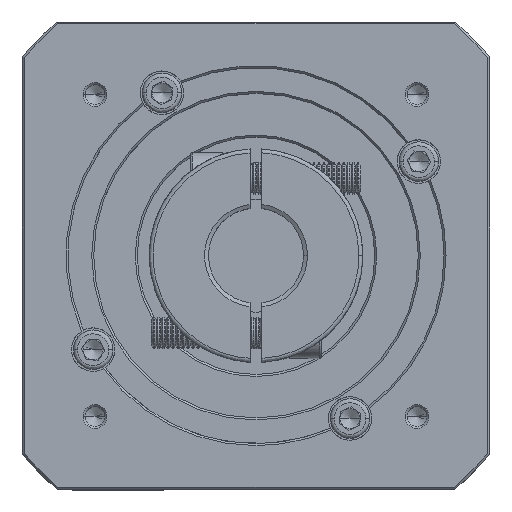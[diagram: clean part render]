
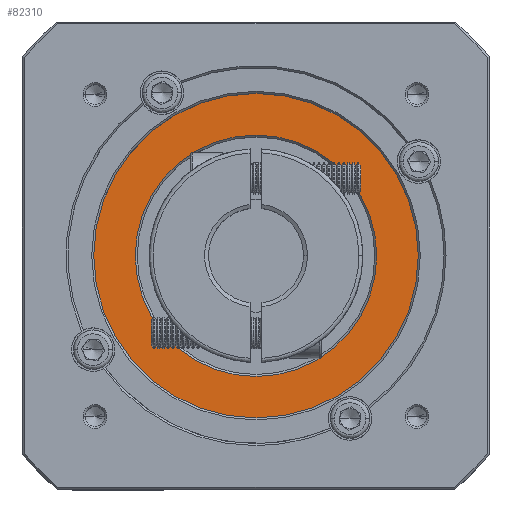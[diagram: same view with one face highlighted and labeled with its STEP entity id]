
A CAD part, top view. The second image highlights one B-rep face of the part: STEP entity #82310.
In plain terms, the highlighted planar face has unit normal (0, 0, 1).
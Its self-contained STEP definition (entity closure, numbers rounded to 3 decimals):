
#226 = EDGE_CURVE ( 'NONE', #70420, #102656, #81495, .T. ) ;
#2575 = VERTEX_POINT ( 'NONE', #78822 ) ;
#3306 = CARTESIAN_POINT ( 'NONE',  ( 64.891, 125.363, 14.683 ) ) ;
#3791 = CIRCLE ( 'NONE', #38930, 30.5 ) ;
#5584 = PLANE ( 'NONE',  #113250 ) ;
#7309 = AXIS2_PLACEMENT_3D ( 'NONE', #36746, #29016, #37125 ) ;
#12868 = EDGE_LOOP ( 'NONE', ( #42656, #79037 ) ) ;
#18182 = FACE_OUTER_BOUND ( 'NONE', #67850, .T. ) ;
#26263 = DIRECTION ( 'NONE',  ( 0., 0., -1. ) ) ;
#29016 = DIRECTION ( 'NONE',  ( 0., 0., 1. ) ) ;
#30655 = CARTESIAN_POINT ( 'NONE',  ( 95.391, 125.363, 14.683 ) ) ;
#36746 = CARTESIAN_POINT ( 'NONE',  ( 64.891, 125.363, 14.683 ) ) ;
#37125 = DIRECTION ( 'NONE',  ( 1., 0., 0. ) ) ;
#38930 = AXIS2_PLACEMENT_3D ( 'NONE', #43353, #26263, #97389 ) ;
#40032 = EDGE_CURVE ( 'NONE', #61509, #2575, #3791, .T. ) ;
#41993 = CARTESIAN_POINT ( 'NONE',  ( 23.891, 125.363, 14.683 ) ) ;
#42656 = ORIENTED_EDGE ( 'NONE', *, *, #40032, .T. ) ;
#43353 = CARTESIAN_POINT ( 'NONE',  ( 64.891, 125.363, 14.683 ) ) ;
#45889 = AXIS2_PLACEMENT_3D ( 'NONE', #3306, #48001, #101651 ) ;
#48001 = DIRECTION ( 'NONE',  ( 0., 0., -1. ) ) ;
#49084 = DIRECTION ( 'NONE',  ( 0., 0., 1. ) ) ;
#60525 = DIRECTION ( 'NONE',  ( 0., 0., 1. ) ) ;
#60903 = CARTESIAN_POINT ( 'NONE',  ( 64.891, 125.363, 14.683 ) ) ;
#61509 = VERTEX_POINT ( 'NONE', #30655 ) ;
#61705 = CIRCLE ( 'NONE', #71500, 41. ) ;
#61866 = EDGE_CURVE ( 'NONE', #2575, #61509, #66843, .T. ) ;
#66843 = CIRCLE ( 'NONE', #45889, 30.5 ) ;
#67850 = EDGE_LOOP ( 'NONE', ( #109366, #86152 ) ) ;
#70420 = VERTEX_POINT ( 'NONE', #41993 ) ;
#71500 = AXIS2_PLACEMENT_3D ( 'NONE', #60903, #60525, #79600 ) ;
#75558 = DIRECTION ( 'NONE',  ( 1., 0., 0. ) ) ;
#78822 = CARTESIAN_POINT ( 'NONE',  ( 34.391, 125.363, 14.683 ) ) ;
#79037 = ORIENTED_EDGE ( 'NONE', *, *, #61866, .T. ) ;
#79600 = DIRECTION ( 'NONE',  ( 1., 0., 0. ) ) ;
#81495 = CIRCLE ( 'NONE', #7309, 41. ) ;
#82310 = ADVANCED_FACE ( 'NONE', ( #18182, #89049 ), #5584, .T. ) ;
#86152 = ORIENTED_EDGE ( 'NONE', *, *, #226, .T. ) ;
#88738 = CARTESIAN_POINT ( 'NONE',  ( 105.891, 125.363, 14.683 ) ) ;
#89049 = FACE_BOUND ( 'NONE', #12868, .T. ) ;
#92956 = CARTESIAN_POINT ( 'NONE',  ( 64.891, 125.363, 14.683 ) ) ;
#97389 = DIRECTION ( 'NONE',  ( 1., 0., 0. ) ) ;
#98511 = EDGE_CURVE ( 'NONE', #102656, #70420, #61705, .T. ) ;
#101651 = DIRECTION ( 'NONE',  ( 1., 0., 0. ) ) ;
#102656 = VERTEX_POINT ( 'NONE', #88738 ) ;
#109366 = ORIENTED_EDGE ( 'NONE', *, *, #98511, .T. ) ;
#113250 = AXIS2_PLACEMENT_3D ( 'NONE', #92956, #49084, #75558 ) ;
